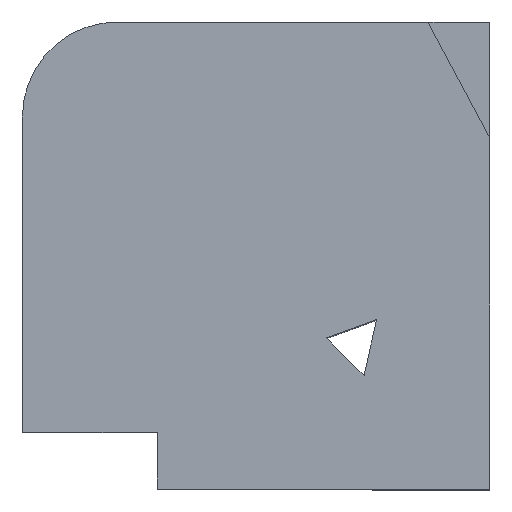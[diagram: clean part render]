
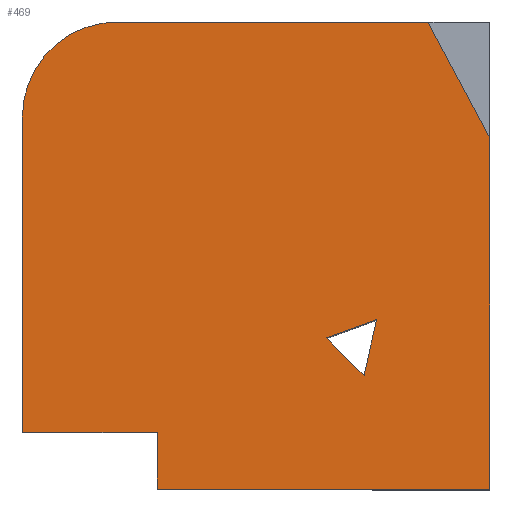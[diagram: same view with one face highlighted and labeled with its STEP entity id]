
A CAD part, top view. The second image highlights one B-rep face of the part: STEP entity #469.
In plain terms, the highlighted planar face has unit normal (0, 0, 1).
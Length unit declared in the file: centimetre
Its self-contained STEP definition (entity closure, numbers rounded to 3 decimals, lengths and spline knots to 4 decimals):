
#2 = CARTESIAN_POINT ( 'NONE',  ( 0., 121.9091, 1000. ) ) ;
#8 = VERTEX_POINT ( 'NONE', #10 ) ;
#9 = LINE ( 'NONE', #13, #601 ) ;
#10 = CARTESIAN_POINT ( 'NONE',  ( 0., 796.6391, 1000. ) ) ;
#13 = CARTESIAN_POINT ( 'NONE',  ( 0., 0., 1000. ) ) ;
#17 = DIRECTION ( 'NONE',  ( 1., 0., 0. ) ) ;
#20 = EDGE_LOOP ( 'NONE', ( #403, #319, #168 ) ) ;
#29 = VECTOR ( 'NONE', #462, 100. ) ;
#31 = CARTESIAN_POINT ( 'NONE',  ( 288.9563, 121.9091, 1000. ) ) ;
#52 = EDGE_CURVE ( 'NONE', #215, #589, #70, .T. ) ;
#62 = ORIENTED_EDGE ( 'NONE', *, *, #355, .F. ) ;
#68 = DIRECTION ( 'NONE',  ( 1., 0., 0. ) ) ;
#70 = LINE ( 'NONE', #86, #351 ) ;
#75 = VERTEX_POINT ( 'NONE', #31 ) ;
#76 = ORIENTED_EDGE ( 'NONE', *, *, #518, .T. ) ;
#79 = CARTESIAN_POINT ( 'NONE',  ( 1000., 752.062, 1000. ) ) ;
#80 = LINE ( 'NONE', #123, #583 ) ;
#86 = CARTESIAN_POINT ( 'NONE',  ( 650.8339, 323.7926, 1000. ) ) ;
#87 = ORIENTED_EDGE ( 'NONE', *, *, #321, .T. ) ;
#92 = CARTESIAN_POINT ( 'NONE',  ( 203.3609, 1000., 1000. ) ) ;
#99 = EDGE_CURVE ( 'NONE', #279, #8, #434, .T. ) ;
#103 = CARTESIAN_POINT ( 'NONE',  ( 0., 1000., 1000. ) ) ;
#119 = DIRECTION ( 'NONE',  ( -0.939, -0.343, 0. ) ) ;
#123 = CARTESIAN_POINT ( 'NONE',  ( 758.1358, 362.9439, 1000. ) ) ;
#125 = CARTESIAN_POINT ( 'NONE',  ( 288.9563, 0., 1000. ) ) ;
#132 = EDGE_CURVE ( 'NONE', #186, #75, #316, .T. ) ;
#138 = EDGE_CURVE ( 'NONE', #8, #257, #411, .T. ) ;
#145 = EDGE_CURVE ( 'NONE', #476, #215, #80, .T. ) ;
#158 = ORIENTED_EDGE ( 'NONE', *, *, #99, .T. ) ;
#166 = DIRECTION ( 'NONE',  ( 1., 0., 0. ) ) ;
#168 = ORIENTED_EDGE ( 'NONE', *, *, #145, .F. ) ;
#186 = VERTEX_POINT ( 'NONE', #564 ) ;
#192 = LINE ( 'NONE', #353, #325 ) ;
#195 = CARTESIAN_POINT ( 'NONE',  ( 731.2877, 243.3388, 1000. ) ) ;
#215 = VERTEX_POINT ( 'NONE', #514 ) ;
#217 = DIRECTION ( 'NONE',  ( 0.707, -0.707, 0. ) ) ;
#224 = DIRECTION ( 'NONE',  ( 0., 0., 1. ) ) ;
#226 = VECTOR ( 'NONE', #247, 100. ) ;
#227 = CARTESIAN_POINT ( 'NONE',  ( 1000., 1000., 1000. ) ) ;
#238 = CARTESIAN_POINT ( 'NONE',  ( 758.1358, 362.9439, 1000. ) ) ;
#239 = DIRECTION ( 'NONE',  ( 0.219, 0.976, 0. ) ) ;
#247 = DIRECTION ( 'NONE',  ( -1., 0., 0. ) ) ;
#255 = VECTOR ( 'NONE', #414, 100. ) ;
#257 = VERTEX_POINT ( 'NONE', #2 ) ;
#258 = CARTESIAN_POINT ( 'NONE',  ( 0., 0., 1000. ) ) ;
#279 = VERTEX_POINT ( 'NONE', #92 ) ;
#282 = AXIS2_PLACEMENT_3D ( 'NONE', #546, #224, #166 ) ;
#284 = ORIENTED_EDGE ( 'NONE', *, *, #132, .F. ) ;
#306 = CARTESIAN_POINT ( 'NONE',  ( 0., 121.9091, 1000. ) ) ;
#313 = CARTESIAN_POINT ( 'NONE',  ( 0., 1000., 1000. ) ) ;
#316 = LINE ( 'NONE', #125, #520 ) ;
#319 = ORIENTED_EDGE ( 'NONE', *, *, #52, .F. ) ;
#321 = EDGE_CURVE ( 'NONE', #373, #465, #378, .T. ) ;
#323 = LINE ( 'NONE', #419, #459 ) ;
#325 = VECTOR ( 'NONE', #239, 100. ) ;
#337 = VERTEX_POINT ( 'NONE', #470 ) ;
#343 = LINE ( 'NONE', #103, #431 ) ;
#351 = VECTOR ( 'NONE', #217, 100. ) ;
#353 = CARTESIAN_POINT ( 'NONE',  ( 731.2877, 243.3388, 1000. ) ) ;
#355 = EDGE_CURVE ( 'NONE', #337, #465, #323, .T. ) ;
#373 = VERTEX_POINT ( 'NONE', #517 ) ;
#378 = LINE ( 'NONE', #227, #255 ) ;
#403 = ORIENTED_EDGE ( 'NONE', *, *, #597, .F. ) ;
#411 = LINE ( 'NONE', #313, #29 ) ;
#414 = DIRECTION ( 'NONE',  ( 0., 1., 0. ) ) ;
#419 = CARTESIAN_POINT ( 'NONE',  ( 1000., 752.062, 1000. ) ) ;
#424 = DIRECTION ( 'NONE',  ( 0.47, -0.883, 0. ) ) ;
#431 = VECTOR ( 'NONE', #530, 100. ) ;
#434 = CIRCLE ( 'NONE', #282, 203.3609 ) ;
#435 = ORIENTED_EDGE ( 'NONE', *, *, #138, .T. ) ;
#436 = FACE_OUTER_BOUND ( 'NONE', #554, .T. ) ;
#443 = EDGE_CURVE ( 'NONE', #75, #257, #480, .T. ) ;
#457 = ORIENTED_EDGE ( 'NONE', *, *, #511, .T. ) ;
#458 = AXIS2_PLACEMENT_3D ( 'NONE', #258, #489, #17 ) ;
#459 = VECTOR ( 'NONE', #424, 100. ) ;
#462 = DIRECTION ( 'NONE',  ( 0., -1., 0. ) ) ;
#465 = VERTEX_POINT ( 'NONE', #79 ) ;
#469 = ADVANCED_FACE ( 'NONE', ( #436, #587 ), #484, .T. ) ;
#470 = CARTESIAN_POINT ( 'NONE',  ( 868.0273, 1000., 1000. ) ) ;
#476 = VERTEX_POINT ( 'NONE', #238 ) ;
#480 = LINE ( 'NONE', #306, #226 ) ;
#484 = PLANE ( 'NONE',  #458 ) ;
#489 = DIRECTION ( 'NONE',  ( 0., 0., 1. ) ) ;
#494 = ORIENTED_EDGE ( 'NONE', *, *, #443, .F. ) ;
#502 = DIRECTION ( 'NONE',  ( 0., 1., 0. ) ) ;
#511 = EDGE_CURVE ( 'NONE', #337, #279, #343, .T. ) ;
#514 = CARTESIAN_POINT ( 'NONE',  ( 650.8339, 323.7926, 1000. ) ) ;
#517 = CARTESIAN_POINT ( 'NONE',  ( 1000., 0., 1000. ) ) ;
#518 = EDGE_CURVE ( 'NONE', #186, #373, #9, .T. ) ;
#520 = VECTOR ( 'NONE', #502, 100. ) ;
#530 = DIRECTION ( 'NONE',  ( -1., 0., 0. ) ) ;
#546 = CARTESIAN_POINT ( 'NONE',  ( 203.3609, 796.6391, 1000. ) ) ;
#554 = EDGE_LOOP ( 'NONE', ( #62, #457, #158, #435, #494, #284, #76, #87 ) ) ;
#564 = CARTESIAN_POINT ( 'NONE',  ( 288.9563, 0., 1000. ) ) ;
#583 = VECTOR ( 'NONE', #119, 100. ) ;
#587 = FACE_BOUND ( 'NONE', #20, .T. ) ;
#589 = VERTEX_POINT ( 'NONE', #195 ) ;
#597 = EDGE_CURVE ( 'NONE', #589, #476, #192, .T. ) ;
#601 = VECTOR ( 'NONE', #68, 100. ) ;
